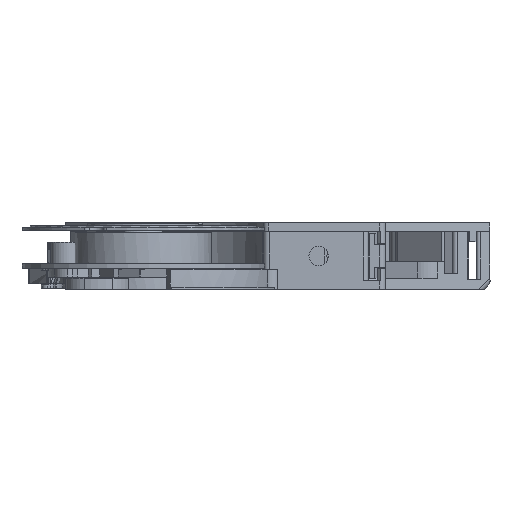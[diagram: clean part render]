
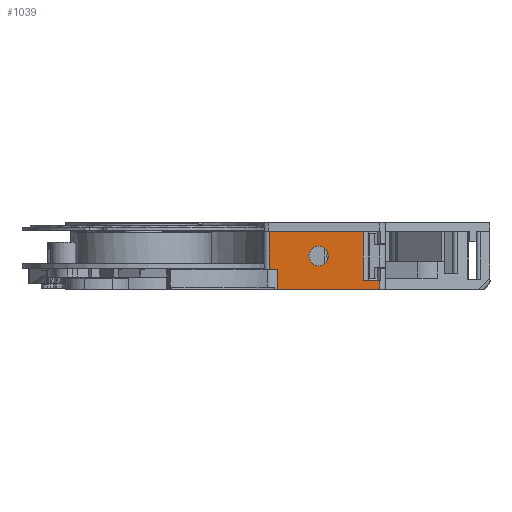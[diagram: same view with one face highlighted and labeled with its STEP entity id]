
A CAD part, left-side view. The second image highlights one B-rep face of the part: STEP entity #1039.
In plain terms, the highlighted planar face has unit normal (-1, 0, 0).
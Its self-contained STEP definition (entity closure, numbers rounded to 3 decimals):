
#576 = CARTESIAN_POINT ( 'NONE',  ( -90.652, 7.4, 3.6 ) ) ;
#686 = EDGE_CURVE ( 'NONE', #13034, #31500, #40666, .T. ) ;
#761 = CARTESIAN_POINT ( 'NONE',  ( -90.652, 5.801, 0. ) ) ;
#1039 = ADVANCED_FACE ( 'NONE', ( #29953, #70447 ), #40580, .T. ) ;
#2261 = DIRECTION ( 'NONE',  ( 0., 0., -1. ) ) ;
#3991 = VECTOR ( 'NONE', #52437, 1000. ) ;
#4308 = VERTEX_POINT ( 'NONE', #24224 ) ;
#7881 = CARTESIAN_POINT ( 'NONE',  ( -90.652, -12.5, 0. ) ) ;
#8064 = VERTEX_POINT ( 'NONE', #68283 ) ;
#8223 = CARTESIAN_POINT ( 'NONE',  ( -90.652, 31.571, 3.6 ) ) ;
#8472 = LINE ( 'NONE', #18723, #31761 ) ;
#8509 = LINE ( 'NONE', #13429, #73021 ) ;
#11763 = CARTESIAN_POINT ( 'NONE',  ( -90.652, 7.4, 10.4 ) ) ;
#11811 = DIRECTION ( 'NONE',  ( 0., 0., 1. ) ) ;
#12524 = ORIENTED_EDGE ( 'NONE', *, *, #26347, .F. ) ;
#12574 = CARTESIAN_POINT ( 'NONE',  ( -90.652, 0., 28.378 ) ) ;
#12627 = VERTEX_POINT ( 'NONE', #70885 ) ;
#13034 = VERTEX_POINT ( 'NONE', #11763 ) ;
#13429 = CARTESIAN_POINT ( 'NONE',  ( -90.652, 0., 0. ) ) ;
#14172 = ORIENTED_EDGE ( 'NONE', *, *, #686, .T. ) ;
#14255 = LINE ( 'NONE', #8223, #19827 ) ;
#14410 = DIRECTION ( 'NONE',  ( 0., 1., 0. ) ) ;
#18057 = VECTOR ( 'NONE', #54873, 1000. ) ;
#18363 = CARTESIAN_POINT ( 'NONE',  ( -90.652, -12.5, 28.378 ) ) ;
#18723 = CARTESIAN_POINT ( 'NONE',  ( -90.652, 0., 10.4 ) ) ;
#19350 = EDGE_CURVE ( 'NONE', #70370, #44796, #53763, .T. ) ;
#19705 = AXIS2_PLACEMENT_3D ( 'NONE', #53845, #30353, #64793 ) ;
#19827 = VECTOR ( 'NONE', #25980, 1000. ) ;
#21021 = CARTESIAN_POINT ( 'NONE',  ( -90.652, -9.5, 10.4 ) ) ;
#24224 = CARTESIAN_POINT ( 'NONE',  ( -90.652, 5.801, 0. ) ) ;
#25980 = DIRECTION ( 'NONE',  ( 0., 1., 0. ) ) ;
#26347 = EDGE_CURVE ( 'NONE', #8064, #31500, #14255, .T. ) ;
#26610 = EDGE_CURVE ( 'NONE', #46028, #4308, #8509, .T. ) ;
#27429 = ORIENTED_EDGE ( 'NONE', *, *, #59960, .T. ) ;
#27894 = VECTOR ( 'NONE', #2261, 1000. ) ;
#29953 = FACE_OUTER_BOUND ( 'NONE', #46036, .T. ) ;
#30353 = DIRECTION ( 'NONE',  ( -1., 0., 0. ) ) ;
#30510 = AXIS2_PLACEMENT_3D ( 'NONE', #12574, #70067, #11811 ) ;
#31162 = DIRECTION ( 'NONE',  ( 0., 1., 0. ) ) ;
#31500 = VERTEX_POINT ( 'NONE', #41322 ) ;
#31761 = VECTOR ( 'NONE', #31162, 1000. ) ;
#31802 = LINE ( 'NONE', #66238, #52403 ) ;
#34370 = EDGE_CURVE ( 'NONE', #40891, #40891, #42651, .T. ) ;
#37572 = CARTESIAN_POINT ( 'NONE',  ( -90.652, -9.5, 1.6 ) ) ;
#40580 = PLANE ( 'NONE',  #30510 ) ;
#40666 = LINE ( 'NONE', #576, #70318 ) ;
#40891 = VERTEX_POINT ( 'NONE', #41262 ) ;
#41262 = CARTESIAN_POINT ( 'NONE',  ( -90.652, -1.5, 7.75 ) ) ;
#41322 = CARTESIAN_POINT ( 'NONE',  ( -90.652, 7.4, 3.6 ) ) ;
#42651 = CIRCLE ( 'NONE', #19705, 1.75 ) ;
#42852 = ORIENTED_EDGE ( 'NONE', *, *, #34370, .F. ) ;
#43268 = ORIENTED_EDGE ( 'NONE', *, *, #56095, .T. ) ;
#44796 = VERTEX_POINT ( 'NONE', #21021 ) ;
#46028 = VERTEX_POINT ( 'NONE', #7881 ) ;
#46036 = EDGE_LOOP ( 'NONE', ( #50407, #74412, #27429, #14172, #12524, #43268, #54892, #52877 ) ) ;
#48619 = DIRECTION ( 'NONE',  ( 0., 1., 0. ) ) ;
#50407 = ORIENTED_EDGE ( 'NONE', *, *, #55238, .T. ) ;
#52403 = VECTOR ( 'NONE', #14410, 1000. ) ;
#52437 = DIRECTION ( 'NONE',  ( 0., 0., 1. ) ) ;
#52877 = ORIENTED_EDGE ( 'NONE', *, *, #57958, .T. ) ;
#53763 = LINE ( 'NONE', #72237, #18057 ) ;
#53845 = CARTESIAN_POINT ( 'NONE',  ( -90.652, -1.5, 6. ) ) ;
#54873 = DIRECTION ( 'NONE',  ( 0., 0., 1. ) ) ;
#54892 = ORIENTED_EDGE ( 'NONE', *, *, #26610, .F. ) ;
#55238 = EDGE_CURVE ( 'NONE', #12627, #70370, #31802, .T. ) ;
#56095 = EDGE_CURVE ( 'NONE', #8064, #4308, #59386, .T. ) ;
#57958 = EDGE_CURVE ( 'NONE', #46028, #12627, #59217, .T. ) ;
#59217 = LINE ( 'NONE', #18363, #3991 ) ;
#59386 = LINE ( 'NONE', #761, #27894 ) ;
#59960 = EDGE_CURVE ( 'NONE', #44796, #13034, #8472, .T. ) ;
#63731 = DIRECTION ( 'NONE',  ( 0., 0., -1. ) ) ;
#64793 = DIRECTION ( 'NONE',  ( 0., 0., 1. ) ) ;
#66238 = CARTESIAN_POINT ( 'NONE',  ( -90.652, -13.5, 1.6 ) ) ;
#68283 = CARTESIAN_POINT ( 'NONE',  ( -90.652, 5.801, 3.6 ) ) ;
#70067 = DIRECTION ( 'NONE',  ( -1., 0., 0. ) ) ;
#70318 = VECTOR ( 'NONE', #63731, 1000. ) ;
#70370 = VERTEX_POINT ( 'NONE', #37572 ) ;
#70447 = FACE_BOUND ( 'NONE', #74265, .T. ) ;
#70885 = CARTESIAN_POINT ( 'NONE',  ( -90.652, -12.5, 1.6 ) ) ;
#72237 = CARTESIAN_POINT ( 'NONE',  ( -90.652, -9.5, 10.4 ) ) ;
#73021 = VECTOR ( 'NONE', #48619, 1000. ) ;
#74265 = EDGE_LOOP ( 'NONE', ( #42852 ) ) ;
#74412 = ORIENTED_EDGE ( 'NONE', *, *, #19350, .T. ) ;
